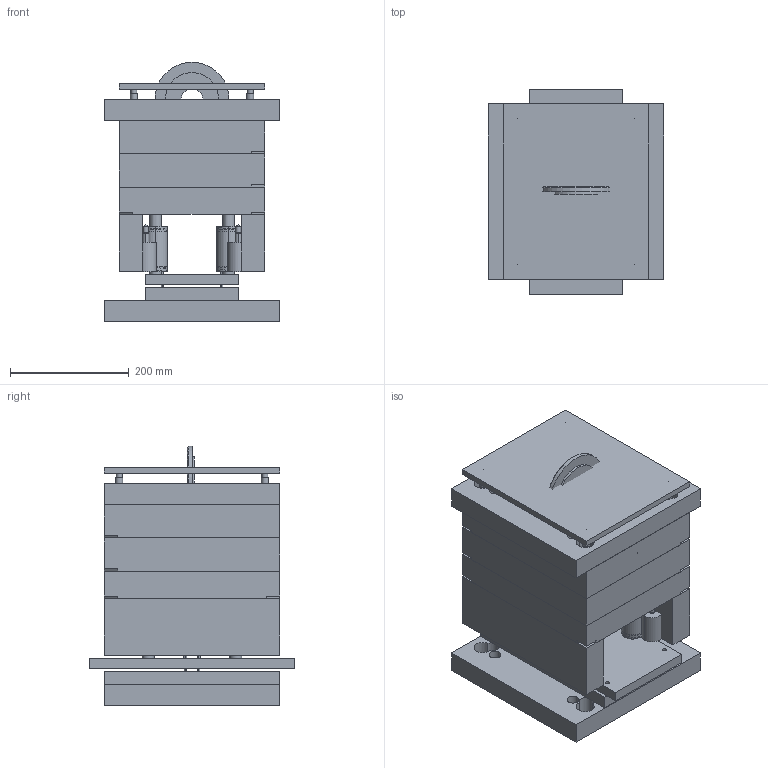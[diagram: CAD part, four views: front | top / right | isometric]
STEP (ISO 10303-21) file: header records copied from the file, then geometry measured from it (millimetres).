
FILE_DESCRIPTION(('Open CASCADE Model'),'2;1');
FILE_NAME('Open CASCADE Shape Model','2026-07-14T06:21:48',('Author'),( 'Open CASCADE'),'Open CASCADE STEP processor 7.9','Open CASCADE 7.9' ,'Unknown');
FILE_SCHEMA(('AUTOMOTIVE_DESIGN { 1 0 10303 214 1 1 1 1 }'));
Length unit declared in the file: millimetre
Products named in the file (64): mold_builder_assembly; Fixed_Half; cavity_plate; clamp_fixed; guide_pin_0; guide_pin_1; guide_pin_2; guide_pin_3; guide_bushing_0; guide_bushing_1; guide_bushing_2; guide_bushing_3; screw_top_0; screw_top_1; screw_top_2; screw_top_3; dowel_pin_0; dowel_pin_1; insulation_plate; sprue_bushing; locating_ring; gate_0; slide_1_K2528; Moving_Half; clamp_moving; support_plate; core_plate; spacer_block; support_pillar_0; support_pillar_1; support_pillar_2; support_pillar_3; screw_bot_0; screw_bot_1; screw_bot_2; screw_bot_3; cooling_channel_0; cooling_channel_1; cooling_channel_2; cooling_channel_3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
Assembly tree (63 placements, depth 3):
  mold_builder_assembly
    Fixed_Half
      cavity_plate
      clamp_fixed
      guide_pin_0
      guide_pin_1
      guide_pin_2
      guide_pin_3
      guide_bushing_0
      guide_bushing_1
      guide_bushing_2
      guide_bushing_3
      screw_top_0
      screw_top_1
      screw_top_2
      screw_top_3
      dowel_pin_0
      dowel_pin_1
      insulation_plate
      sprue_bushing
      locating_ring
      gate_0
      slide_1_K2528
    Moving_Half
      clamp_moving
      support_plate
      core_plate
      spacer_block
      support_pillar_0
      support_pillar_1
      support_pillar_2
      support_pillar_3
      screw_bot_0
      screw_bot_1
      screw_bot_2
      screw_bot_3
      cooling_channel_0
      cooling_channel_1
      cooling_channel_2
      cooling_channel_3
      cooling_channel_4
      cooling_uturn_0
      cooling_uturn_1
      cooling_uturn_2
      cooling_uturn_3
      cooling_inlet
      cooling_outlet
      cooling_oring_inlet
      cooling_oring_outlet
    Ejection
      ejector_plate
      ejector_retainer
      ejector_pin_0
      ejector_pin_1
      ejector_pin_2
      ejector_pin_3
      return_pin_0
      return_pin_1
      return_pin_2
      return_pin_3
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Bounding box: 296 x 346 x 437.5 mm (x, y, z)
Volume: 23713069.7 mm3; surface area: 2349062.5 mm2
Topology: 103 solids, 103 shells, 1209 faces, 2541 edges, 1590 vertices
Faces by surface type: plane 564, cylinder 409, cone 172, bspline 32, torus 20, sphere 12
Full cylindrical faces by diameter (mm): 4 x5, 6.136 x2, 6.8 x4, 9.728 x2, 10.2 x16, 11.4 x2, 11.98 x8, 12 x18, 13.5 x8, 14 x21, 15 x2, 16 x1, 16.6 x4, 18 x8, 20 x20, 20.1 x12, 24.1 x4, 28 x10, 90 x1, 125 x1
Entity records: 79000 total; most frequent: CARTESIAN_POINT 26545, DIRECTION 9981, ORIENTED_EDGE 4980, PCURVE 4980, DEFINITIONAL_REPRESENTATION 4980, LINE 4728, VECTOR 4728, EDGE_CURVE 2490
